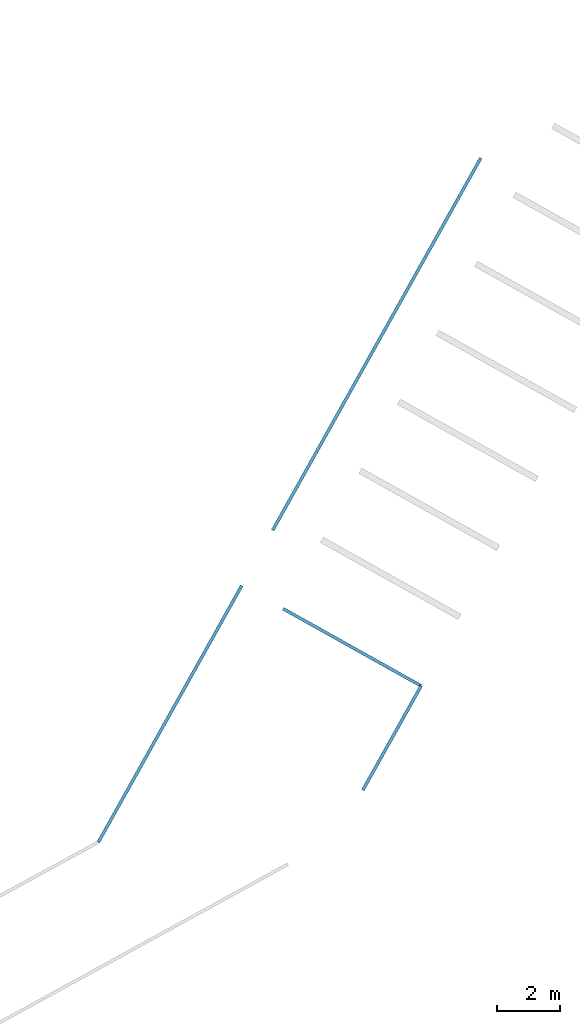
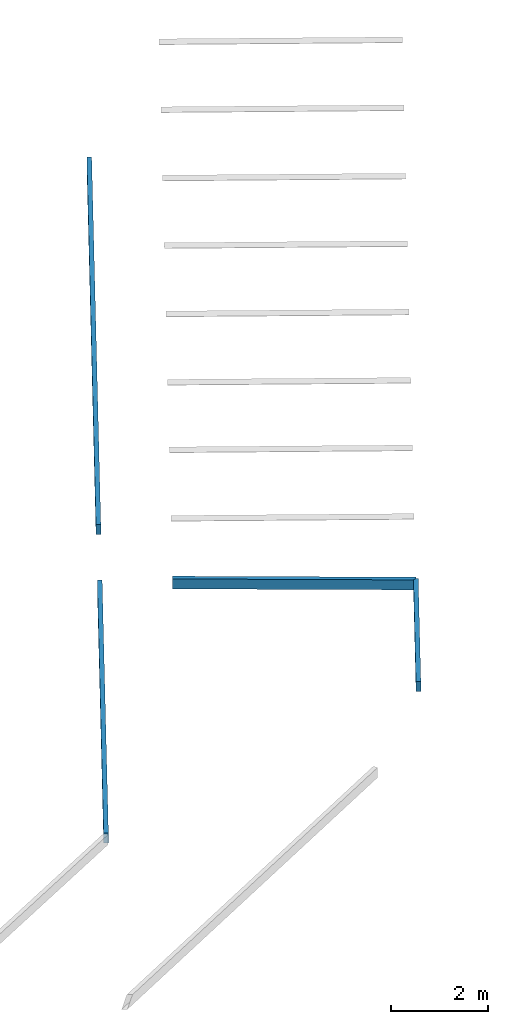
# One storey, part 7 of 24: 4 beams.
"""IFC2X3 building model written with IfcOpenShell, lengths in millimetres."""

from ifc_helpers import new_model, entity, si_unit, converted_unit, derived_unit, direction, frame, origin, place, context, subcontext, project, spatial, polyline, outline, extrude, material, type_object, element, save


model = new_model("IFC2X3")

# Units and contexts
model_context = context("Model", 3, precision=0.01, world=origin(), true_north=direction((6.123031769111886e-17, 1.0)))
body_context = subcontext(model_context, "Body", "Model", "MODEL_VIEW")
ifc_project = project(units=[si_unit("LENGTHUNIT", "METRE", prefix="MILLI"), si_unit("AREAUNIT", "SQUARE_METRE"), si_unit("VOLUMEUNIT", "CUBIC_METRE"), converted_unit("PLANEANGLEUNIT", "DEGREE", entity("IfcRatioMeasure", 0.017453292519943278), si_unit("PLANEANGLEUNIT", "RADIAN"), dimensions=[0, 0, 0, 0, 0, 0, 0]), si_unit("MASSUNIT", "GRAM", prefix="KILO"), derived_unit("MASSDENSITYUNIT", [(si_unit("MASSUNIT", "GRAM", prefix="KILO"), 1), (si_unit("LENGTHUNIT", "METRE"), -3)]), derived_unit("MOMENTOFINERTIAUNIT", [(si_unit("LENGTHUNIT", "METRE"), 4)]), si_unit("TIMEUNIT", "SECOND"), si_unit("FREQUENCYUNIT", "HERTZ"), si_unit("THERMODYNAMICTEMPERATUREUNIT", "DEGREE_CELSIUS"), derived_unit("THERMALTRANSMITTANCEUNIT", [(si_unit("MASSUNIT", "GRAM", prefix="KILO"), 1), (si_unit("THERMODYNAMICTEMPERATUREUNIT", "KELVIN"), -1), (si_unit("TIMEUNIT", "SECOND"), -3)]), derived_unit("THERMALCONDUCTANCEUNIT", [(si_unit("MASSUNIT", "GRAM", prefix="KILO"), 1), (si_unit("LENGTHUNIT", "METRE"), 1), (si_unit("THERMODYNAMICTEMPERATUREUNIT", "KELVIN"), -1), (si_unit("TIMEUNIT", "SECOND"), -3)]), derived_unit("VOLUMETRICFLOWRATEUNIT", [(si_unit("LENGTHUNIT", "METRE"), 3), (si_unit("TIMEUNIT", "SECOND"), -1)]), derived_unit("MASSFLOWRATEUNIT", [(si_unit("MASSUNIT", "GRAM", prefix="KILO"), 1), (si_unit("TIMEUNIT", "SECOND"), -1)]), derived_unit("ROTATIONALFREQUENCYUNIT", [(si_unit("TIMEUNIT", "SECOND"), -1)]), si_unit("ELECTRICCURRENTUNIT", "AMPERE"), si_unit("ELECTRICVOLTAGEUNIT", "VOLT"), si_unit("POWERUNIT", "WATT"), converted_unit("FORCEUNIT", "KIP", entity("IfcRatioMeasure", 2.088543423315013e-05), si_unit("FORCEUNIT", "NEWTON"), dimensions=[1, 1, -2, 0, 0, 0, 0]), si_unit("ILLUMINANCEUNIT", "LUX"), si_unit("LUMINOUSFLUXUNIT", "LUMEN"), si_unit("LUMINOUSINTENSITYUNIT", "CANDELA"), derived_unit("USERDEFINED", [(si_unit("MASSUNIT", "GRAM", prefix="KILO"), -1), (si_unit("LENGTHUNIT", "METRE"), -2), (si_unit("TIMEUNIT", "SECOND"), 3), (si_unit("LUMINOUSFLUXUNIT", "LUMEN"), 1)]), derived_unit("USERDEFINED", [(si_unit("MASSUNIT", "GRAM", prefix="KILO"), 1), (si_unit("LENGTHUNIT", "METRE"), 3), (si_unit("TIMEUNIT", "SECOND"), -3), (si_unit("ELECTRICCURRENTUNIT", "AMPERE"), -2)]), derived_unit("USERDEFINED", [(si_unit("LENGTHUNIT", "METRE"), 2), (si_unit("TIMEUNIT", "SECOND"), -2)]), derived_unit("SOUNDPOWERUNIT", [(si_unit("MASSUNIT", "GRAM", prefix="KILO"), 1), (si_unit("LENGTHUNIT", "METRE"), 2), (si_unit("TIMEUNIT", "SECOND"), -3)]), derived_unit("SOUNDPRESSUREUNIT", [(si_unit("MASSUNIT", "GRAM", prefix="KILO"), 1), (si_unit("LENGTHUNIT", "METRE"), -1), (si_unit("TIMEUNIT", "SECOND"), -2)]), derived_unit("LINEARVELOCITYUNIT", [(si_unit("LENGTHUNIT", "METRE"), 1), (si_unit("TIMEUNIT", "SECOND"), -1)]), si_unit("PRESSUREUNIT", "PASCAL"), derived_unit("USERDEFINED", [(si_unit("LENGTHUNIT", "METRE"), -2), (si_unit("MASSUNIT", "GRAM", prefix="KILO"), 1), (si_unit("TIMEUNIT", "SECOND"), -2)]), derived_unit("LINEARFORCEUNIT", [(si_unit("MASSUNIT", "GRAM", prefix="KILO"), 1), (si_unit("LENGTHUNIT", "METRE"), 1), (si_unit("TIMEUNIT", "SECOND"), -2), (si_unit("LENGTHUNIT", "METRE"), -1)]), derived_unit("PLANARFORCEUNIT", [(si_unit("MASSUNIT", "GRAM", prefix="KILO"), 1), (si_unit("LENGTHUNIT", "METRE"), 1), (si_unit("TIMEUNIT", "SECOND"), -2), (si_unit("LENGTHUNIT", "METRE"), -2)]), derived_unit("SPECIFICHEATCAPACITYUNIT", [(si_unit("LENGTHUNIT", "METRE"), 2), (si_unit("TIMEUNIT", "SECOND"), -2), (si_unit("THERMODYNAMICTEMPERATUREUNIT", "KELVIN"), -1)]), derived_unit("VAPORPERMEABILITYUNIT", [(si_unit("TIMEUNIT", "SECOND"), 1), (si_unit("LENGTHUNIT", "METRE"), -1)]), derived_unit("DYNAMICVISCOSITYUNIT", [(si_unit("MASSUNIT", "GRAM", prefix="KILO"), 1), (si_unit("LENGTHUNIT", "METRE"), -1), (si_unit("TIMEUNIT", "SECOND"), -1)]), derived_unit("THERMALEXPANSIONCOEFFICIENTUNIT", [(si_unit("THERMODYNAMICTEMPERATUREUNIT", "KELVIN"), -1)])], contexts=[model_context])

# Site, building, storey
site_placement = place(None, frame((0.0, 0.0, 0.0), z_axis=(0.0, 0.0, 1.0), x_axis=(0.8191520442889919, 0.5735764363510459, 0.0)))
site = spatial("IfcSite", under=ifc_project, at=site_placement, Name="Default", CompositionType="ELEMENT")
building_placement = place(site_placement, origin())
building = spatial("IfcBuilding", under=site, at=building_placement, CompositionType="ELEMENT")
storey_placement = place(building_placement, frame((0.0, 0.0, -1150.0)))
storey = spatial("IfcBuildingStorey", under=building, at=storey_placement, Name="6.EG KH -1.15", CompositionType="ELEMENT", Elevation=-1150.0000000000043)

# Beams
ifc_material = material(Name="Paint-01")
beam_type_1 = type_object("IfcBeamType", Name="Beam-141 266038:Beam-141 266038", PredefinedType="NOTDEFINED")
beam_1_placement = place(storey_placement, origin())
element("IfcBeam", 1, at=beam_1_placement, inside=storey, type_object=beam_type_1, material=ifc_material, Name="Beam-141", ObjectType="Beam-141 266038:Beam-141 266038", context=body_context, shape_type="SweptSolid", body=[
    extrude(outline(polyline([(-4649.8479016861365, -125.0), (4645.544622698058, -125.0), (4649.8479016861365, 125.0), (-4645.54462269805, 125.0), (-4649.8479016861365, -125.0)])), frame((-73798.0637100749, 151515.94117614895, 631.7372242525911), z_axis=(-0.43518770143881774, 0.9003397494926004, 0.0), x_axis=(-0.9002063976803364, -0.4351232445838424, 0.017210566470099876)), (0.0, 0.0, 1.0), 100.00000000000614),
])
beam_type_2 = type_object("IfcBeamType", Name="Beam-141 266031:Beam-141 266031", PredefinedType="NOTDEFINED")
beam_2_placement = place(storey_placement, origin())
element("IfcBeam", 2, at=beam_2_placement, inside=storey, type_object=beam_type_2, material=ifc_material, Name="Beam-141", ObjectType="Beam-141 266031:Beam-141 266031", context=body_context, shape_type="SweptSolid", body=[
    extrude(outline(polyline([(-6753.180804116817, -125.0), (6748.847303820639, -125.0), (6753.180804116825, 125.0), (-6748.84730382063, 125.0), (-6753.180804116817, -125.0)])), frame((-61736.20487094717, 157346.15410658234, 428.87745087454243), z_axis=(-0.4351876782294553, 0.9003397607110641, 0.0), x_axis=(-0.9002045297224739, -0.4351223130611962, 0.01733139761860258)), (0.0, 0.0, 1.0), 99.99999999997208),
])
beam_type_3 = type_object("IfcBeamType", Name="Beam-141 238098:Beam-141 238098", PredefinedType="NOTDEFINED")
beam_3_placement = place(storey_placement, origin())
element("IfcBeam", 3, at=beam_3_placement, inside=storey, type_object=beam_type_3, material=ifc_material, Name="Beam-141", ObjectType="Beam-141 238098:Beam-141 238098", context=body_context, shape_type="SweptSolid", body=[
    extrude(outline(polyline([(-1891.0520108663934, -125.0), (1887.392421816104, -125.0), (1891.0520108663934, 125.0), (-1887.392421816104, 125.0), (-1891.0520108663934, -125.0)])), frame((-68486.21742890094, 146863.97513279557, 552.6387533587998), z_axis=(-0.43518768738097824, 0.9003397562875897, 0.0), x_axis=(-0.9002433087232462, -0.4351410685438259, 0.014636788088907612)), (0.0, 0.0, 1.0), 99.99999999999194),
])
beam_type_4 = type_object("IfcBeamType", Name="Beam-142 238038:Beam-142 238038", PredefinedType="NOTDEFINED")
beam_4_placement = place(storey_placement, origin())
element("IfcBeam", 4, at=beam_4_placement, inside=storey, type_object=beam_type_4, material=ifc_material, Name="Beam-142", ObjectType="Beam-142 238038:Beam-142 238038", context=body_context, shape_type="SweptSolid", body=[
    extrude(outline(polyline([(-2502.0976320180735, -125.0), (2498.4380429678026, -125.0), (2502.0976320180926, 125.0), (-2498.438042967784, 125.0), (-2502.0976320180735, -125.0)])), frame((-67940.20336058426, 149960.16030089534, 561.582498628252), z_axis=(0.9003397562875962, 0.4351876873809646, 0.0), x_axis=(-0.43514106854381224, 0.9002433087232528, 0.014636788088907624)), (0.0, 0.0, 1.0), 99.99999999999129),
])

save(model, "model.ifc")
